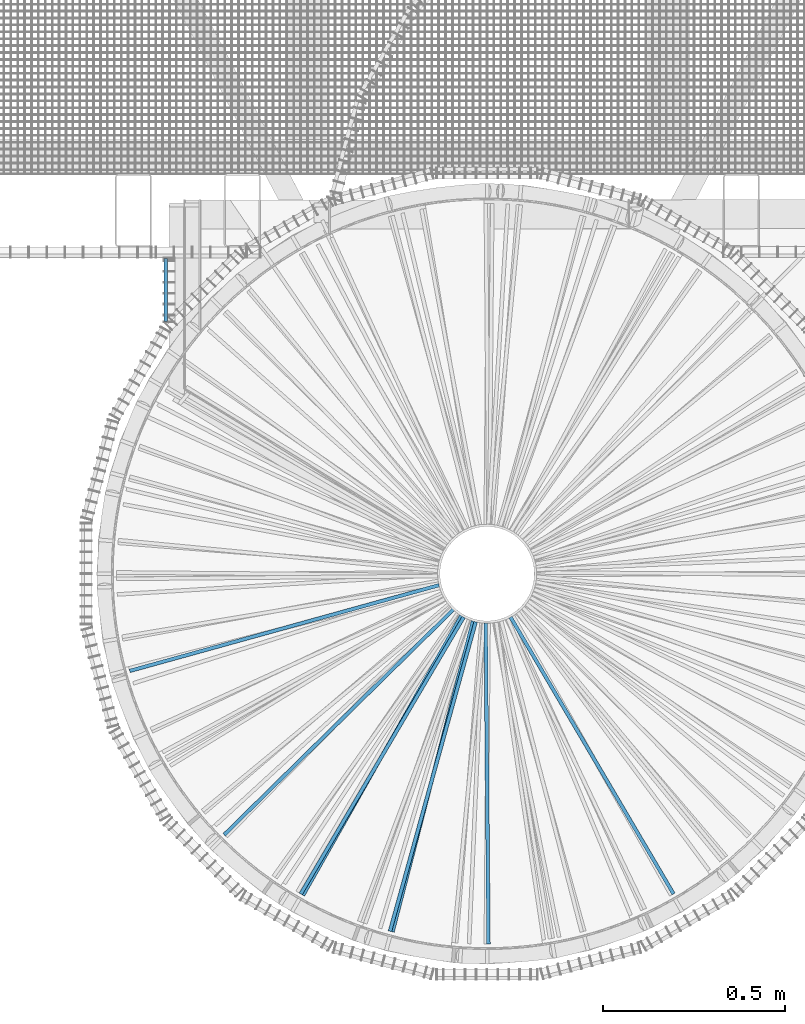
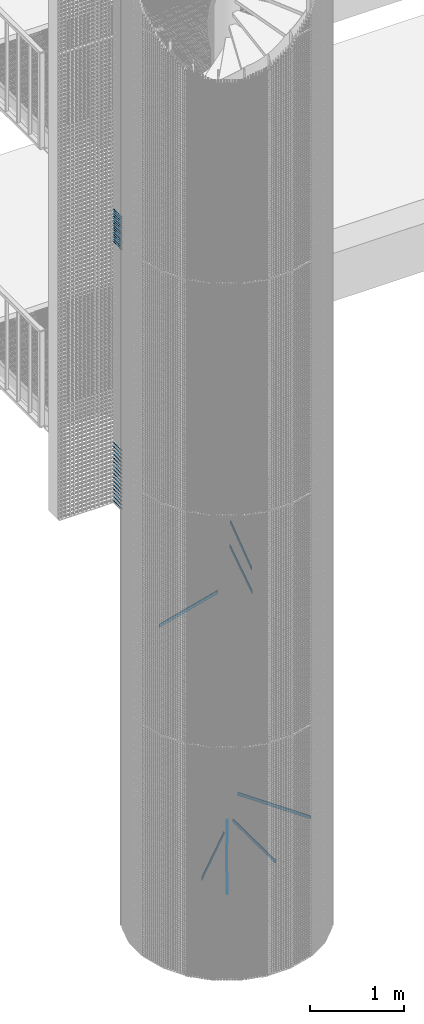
# One storey, part 180 of 1183: 39 beams, 18 elements without a shape of their own.
"""IFC2X3 building model written with IfcOpenShell, lengths in millimetres."""

from ifc_helpers import new_model, si_unit, frame, origin_with_axes, origin_2d_with_axis, place, context, subcontext, project, spatial, polyline, rectangle, outline, extrude, boolean, material, type_object, element, aggregate, save


model = new_model("IFC2X3")

# Units and contexts
model_context = context("Model", 3, precision=1e-05, world=origin_with_axes())
body_context = subcontext(model_context, "Body", "Model", "MODEL_VIEW")
ifc_project = project(units=[si_unit("LENGTHUNIT", "METRE", prefix="MILLI"), si_unit("AREAUNIT", "SQUARE_METRE"), si_unit("VOLUMEUNIT", "CUBIC_METRE"), si_unit("MASSUNIT", "GRAM", prefix="KILO"), si_unit("TIMEUNIT", "SECOND"), si_unit("PLANEANGLEUNIT", "RADIAN"), si_unit("SOLIDANGLEUNIT", "STERADIAN"), si_unit("THERMODYNAMICTEMPERATUREUNIT", "DEGREE_CELSIUS"), si_unit("LUMINOUSINTENSITYUNIT", "LUMEN")], contexts=[model_context])

# Site, building, storey
site_placement = place(None, origin_with_axes())
site = spatial("IfcSite", under=ifc_project, at=site_placement, Name="Undefined", CompositionType="ELEMENT")
building_placement = place(site_placement, origin_with_axes())
building = spatial("IfcBuilding", under=site, at=building_placement, Name="Undefined", CompositionType="ELEMENT")
storey_placement = place(building_placement, origin_with_axes())
storey = spatial("IfcBuildingStorey", under=building, at=storey_placement, Name="Undefined", CompositionType="ELEMENT", Elevation=0.0)

# Assembly, beam
assembly_1_placement = place(storey_placement, origin_with_axes())
assembly_1 = element("IfcElementAssembly", 1, at=assembly_1_placement, inside=storey, AssemblyPlace="NOTDEFINED", PredefinedType="NOTDEFINED")
ifc_material = material(Name="STEEL/S235JR")
beam_type_1 = type_object("IfcBeamType", Name="PL2*10", PredefinedType="NOTDEFINED")
beam_1_placement = place(assembly_1_placement, frame((-884.882567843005, 867.997017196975, 5950.0), z_axis=(-1.0, 0.0, 0.0), x_axis=(0.0, -1.0, 0.0)))
beam_1 = element("IfcBeam", 2, at=beam_1_placement, type_object=beam_type_1, material=ifc_material, Name="ENTRETOISE", context=body_context, shape_type="SweptSolid", body=[
    extrude(rectangle(XDim=2.0, YDim=10.0, at=origin_2d_with_axis()), frame((174.109999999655, 0.0, 0.0), z_axis=(-1.0, 0.0, 0.0), x_axis=(0.0, -1.0, 0.0)), (0.0, 0.0, 1.0), 174.11),
])
aggregate(assembly_1, [beam_1])

assembly_2_placement = place(storey_placement, origin_with_axes())
assembly_2 = element("IfcElementAssembly", 3, at=assembly_2_placement, inside=storey, AssemblyPlace="NOTDEFINED", PredefinedType="NOTDEFINED")
beam_2_placement = place(assembly_2_placement, frame((-884.882567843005, 867.997017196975, 5900.0), z_axis=(-1.0, 0.0, 0.0), x_axis=(0.0, -1.0, 0.0)))
beam_2 = element("IfcBeam", 4, at=beam_2_placement, type_object=beam_type_1, material=ifc_material, Name="ENTRETOISE", context=body_context, shape_type="SweptSolid", body=[
    extrude(rectangle(XDim=2.0, YDim=10.0, at=origin_2d_with_axis()), frame((174.109999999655, 0.0, 0.0), z_axis=(-1.0, 0.0, 0.0), x_axis=(0.0, -1.0, 0.0)), (0.0, 0.0, 1.0), 174.11),
])
aggregate(assembly_2, [beam_2])

assembly_3_placement = place(storey_placement, origin_with_axes())
assembly_3 = element("IfcElementAssembly", 5, at=assembly_3_placement, inside=storey, AssemblyPlace="NOTDEFINED", PredefinedType="NOTDEFINED")
beam_3_placement = place(assembly_3_placement, frame((-884.882567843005, 867.997017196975, 5850.0), z_axis=(-1.0, 0.0, 0.0), x_axis=(0.0, -1.0, 0.0)))
beam_3 = element("IfcBeam", 6, at=beam_3_placement, type_object=beam_type_1, material=ifc_material, Name="ENTRETOISE", context=body_context, shape_type="SweptSolid", body=[
    extrude(rectangle(XDim=2.0, YDim=10.0, at=origin_2d_with_axis()), frame((174.109999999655, 0.0, 0.0), z_axis=(-1.0, 0.0, 0.0), x_axis=(0.0, -1.0, 0.0)), (0.0, 0.0, 1.0), 174.11),
])
aggregate(assembly_3, [beam_3])

assembly_4_placement = place(storey_placement, origin_with_axes())
assembly_4 = element("IfcElementAssembly", 7, at=assembly_4_placement, inside=storey, AssemblyPlace="NOTDEFINED", PredefinedType="NOTDEFINED")
beam_4_placement = place(assembly_4_placement, frame((-884.882567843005, 867.997017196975, 5800.0), z_axis=(-1.0, 0.0, 0.0), x_axis=(0.0, -1.0, 0.0)))
beam_4 = element("IfcBeam", 8, at=beam_4_placement, type_object=beam_type_1, material=ifc_material, Name="ENTRETOISE", context=body_context, shape_type="SweptSolid", body=[
    extrude(rectangle(XDim=2.0, YDim=10.0, at=origin_2d_with_axis()), frame((174.109999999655, 0.0, 0.0), z_axis=(-1.0, 0.0, 0.0), x_axis=(0.0, -1.0, 0.0)), (0.0, 0.0, 1.0), 174.11),
])
aggregate(assembly_4, [beam_4])

assembly_5_placement = place(storey_placement, origin_with_axes())
assembly_5 = element("IfcElementAssembly", 9, at=assembly_5_placement, inside=storey, AssemblyPlace="NOTDEFINED", PredefinedType="NOTDEFINED")
beam_5_placement = place(assembly_5_placement, frame((-884.882567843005, 867.997017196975, 5750.0), z_axis=(-1.0, 0.0, 0.0), x_axis=(0.0, -1.0, 0.0)))
beam_5 = element("IfcBeam", 10, at=beam_5_placement, type_object=beam_type_1, material=ifc_material, Name="ENTRETOISE", context=body_context, shape_type="SweptSolid", body=[
    extrude(rectangle(XDim=2.0, YDim=10.0, at=origin_2d_with_axis()), frame((174.109999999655, 0.0, 0.0), z_axis=(-1.0, 0.0, 0.0), x_axis=(0.0, -1.0, 0.0)), (0.0, 0.0, 1.0), 174.11),
])
aggregate(assembly_5, [beam_5])

assembly_6_placement = place(storey_placement, origin_with_axes())
assembly_6 = element("IfcElementAssembly", 11, at=assembly_6_placement, inside=storey, AssemblyPlace="NOTDEFINED", PredefinedType="NOTDEFINED")
beam_6_placement = place(assembly_6_placement, frame((-884.882567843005, 867.997017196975, 5700.0), z_axis=(-1.0, 0.0, 0.0), x_axis=(0.0, -1.0, 0.0)))
beam_6 = element("IfcBeam", 12, at=beam_6_placement, type_object=beam_type_1, material=ifc_material, Name="ENTRETOISE", context=body_context, shape_type="SweptSolid", body=[
    extrude(rectangle(XDim=2.0, YDim=10.0, at=origin_2d_with_axis()), frame((174.109999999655, 0.0, 0.0), z_axis=(-1.0, 0.0, 0.0), x_axis=(0.0, -1.0, 0.0)), (0.0, 0.0, 1.0), 174.11),
])
aggregate(assembly_6, [beam_6])

assembly_7_placement = place(storey_placement, origin_with_axes())
assembly_7 = element("IfcElementAssembly", 13, at=assembly_7_placement, inside=storey, AssemblyPlace="NOTDEFINED", PredefinedType="NOTDEFINED")
beam_7_placement = place(assembly_7_placement, frame((-884.882567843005, 867.997017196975, 5650.0), z_axis=(-1.0, 0.0, 0.0), x_axis=(0.0, -1.0, 0.0)))
beam_7 = element("IfcBeam", 14, at=beam_7_placement, type_object=beam_type_1, material=ifc_material, Name="ENTRETOISE", context=body_context, shape_type="SweptSolid", body=[
    extrude(rectangle(XDim=2.0, YDim=10.0, at=origin_2d_with_axis()), frame((174.109999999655, 0.0, 0.0), z_axis=(-1.0, 0.0, 0.0), x_axis=(0.0, -1.0, 0.0)), (0.0, 0.0, 1.0), 174.11),
])
aggregate(assembly_7, [beam_7])

assembly_8_placement = place(storey_placement, origin_with_axes())
assembly_8 = element("IfcElementAssembly", 15, at=assembly_8_placement, inside=storey, AssemblyPlace="NOTDEFINED", PredefinedType="NOTDEFINED")
beam_8_placement = place(assembly_8_placement, frame((-884.882567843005, 867.997017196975, 5600.0), z_axis=(-1.0, 0.0, 0.0), x_axis=(0.0, -1.0, 0.0)))
beam_8 = element("IfcBeam", 16, at=beam_8_placement, type_object=beam_type_1, material=ifc_material, Name="ENTRETOISE", context=body_context, shape_type="SweptSolid", body=[
    extrude(rectangle(XDim=2.0, YDim=10.0, at=origin_2d_with_axis()), frame((174.109999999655, 0.0, 0.0), z_axis=(-1.0, 0.0, 0.0), x_axis=(0.0, -1.0, 0.0)), (0.0, 0.0, 1.0), 174.11),
])
aggregate(assembly_8, [beam_8])

assembly_9_placement = place(storey_placement, origin_with_axes())
assembly_9 = element("IfcElementAssembly", 17, at=assembly_9_placement, inside=storey, AssemblyPlace="NOTDEFINED", PredefinedType="NOTDEFINED")
beam_9_placement = place(assembly_9_placement, frame((-884.882567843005, 867.997017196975, 5550.0), z_axis=(-1.0, 0.0, 0.0), x_axis=(0.0, -1.0, 0.0)))
beam_9 = element("IfcBeam", 18, at=beam_9_placement, type_object=beam_type_1, material=ifc_material, Name="ENTRETOISE", context=body_context, shape_type="SweptSolid", body=[
    extrude(rectangle(XDim=2.0, YDim=10.0, at=origin_2d_with_axis()), frame((174.109999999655, 0.0, 0.0), z_axis=(-1.0, 0.0, 0.0), x_axis=(0.0, -1.0, 0.0)), (0.0, 0.0, 1.0), 174.11),
])
aggregate(assembly_9, [beam_9])

assembly_10_placement = place(storey_placement, origin_with_axes())
assembly_10 = element("IfcElementAssembly", 19, at=assembly_10_placement, inside=storey, AssemblyPlace="NOTDEFINED", PredefinedType="NOTDEFINED")
beam_10_placement = place(assembly_10_placement, frame((-884.882567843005, 867.997017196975, 5500.0), z_axis=(-1.0, 0.0, 0.0), x_axis=(0.0, -1.0, 0.0)))
beam_10 = element("IfcBeam", 20, at=beam_10_placement, type_object=beam_type_1, material=ifc_material, Name="ENTRETOISE", context=body_context, shape_type="SweptSolid", body=[
    extrude(rectangle(XDim=2.0, YDim=10.0, at=origin_2d_with_axis()), frame((174.109999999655, 0.0, 0.0), z_axis=(-1.0, 0.0, 0.0), x_axis=(0.0, -1.0, 0.0)), (0.0, 0.0, 1.0), 174.11),
])
aggregate(assembly_10, [beam_10])

assembly_11_placement = place(storey_placement, origin_with_axes())
assembly_11 = element("IfcElementAssembly", 21, at=assembly_11_placement, inside=storey, AssemblyPlace="NOTDEFINED", PredefinedType="NOTDEFINED")
beam_11_placement = place(assembly_11_placement, frame((-884.882567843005, 867.997017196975, 5450.0), z_axis=(-1.0, 0.0, 0.0), x_axis=(0.0, -1.0, 0.0)))
beam_11 = element("IfcBeam", 22, at=beam_11_placement, type_object=beam_type_1, material=ifc_material, Name="ENTRETOISE", context=body_context, shape_type="SweptSolid", body=[
    extrude(rectangle(XDim=2.0, YDim=10.0, at=origin_2d_with_axis()), frame((174.109999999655, 0.0, 0.0), z_axis=(-1.0, 0.0, 0.0), x_axis=(0.0, -1.0, 0.0)), (0.0, 0.0, 1.0), 174.11),
])
aggregate(assembly_11, [beam_11])

assembly_12_placement = place(storey_placement, origin_with_axes())
assembly_12 = element("IfcElementAssembly", 23, at=assembly_12_placement, inside=storey, AssemblyPlace="NOTDEFINED", PredefinedType="NOTDEFINED")
beam_12_placement = place(assembly_12_placement, frame((-884.882567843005, 867.997017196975, 5400.0), z_axis=(-1.0, 0.0, 0.0), x_axis=(0.0, -1.0, 0.0)))
beam_12 = element("IfcBeam", 24, at=beam_12_placement, type_object=beam_type_1, material=ifc_material, Name="ENTRETOISE", context=body_context, shape_type="SweptSolid", body=[
    extrude(rectangle(XDim=2.0, YDim=10.0, at=origin_2d_with_axis()), frame((174.109999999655, 0.0, 0.0), z_axis=(-1.0, 0.0, 0.0), x_axis=(0.0, -1.0, 0.0)), (0.0, 0.0, 1.0), 174.11),
])
aggregate(assembly_12, [beam_12])

assembly_13_placement = place(storey_placement, origin_with_axes())
assembly_13 = element("IfcElementAssembly", 25, at=assembly_13_placement, inside=storey, AssemblyPlace="NOTDEFINED", PredefinedType="NOTDEFINED")
beam_13_placement = place(assembly_13_placement, frame((-884.882567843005, 867.997017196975, 5350.0), z_axis=(-1.0, 0.0, 0.0), x_axis=(0.0, -1.0, 0.0)))
beam_13 = element("IfcBeam", 26, at=beam_13_placement, type_object=beam_type_1, material=ifc_material, Name="ENTRETOISE", context=body_context, shape_type="SweptSolid", body=[
    extrude(rectangle(XDim=2.0, YDim=10.0, at=origin_2d_with_axis()), frame((174.109999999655, 0.0, 0.0), z_axis=(-1.0, 0.0, 0.0), x_axis=(0.0, -1.0, 0.0)), (0.0, 0.0, 1.0), 174.11),
])
aggregate(assembly_13, [beam_13])

assembly_14_placement = place(storey_placement, origin_with_axes())
assembly_14 = element("IfcElementAssembly", 27, at=assembly_14_placement, inside=storey, AssemblyPlace="NOTDEFINED", PredefinedType="NOTDEFINED")
beam_14_placement = place(assembly_14_placement, frame((-884.882567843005, 867.997017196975, 5300.0), z_axis=(-1.0, 0.0, 0.0), x_axis=(0.0, -1.0, 0.0)))
beam_14 = element("IfcBeam", 28, at=beam_14_placement, type_object=beam_type_1, material=ifc_material, Name="ENTRETOISE", context=body_context, shape_type="SweptSolid", body=[
    extrude(rectangle(XDim=2.0, YDim=10.0, at=origin_2d_with_axis()), frame((174.109999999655, 0.0, 0.0), z_axis=(-1.0, 0.0, 0.0), x_axis=(0.0, -1.0, 0.0)), (0.0, 0.0, 1.0), 174.11),
])
aggregate(assembly_14, [beam_14])

assembly_15_placement = place(storey_placement, origin_with_axes())
assembly_15 = element("IfcElementAssembly", 29, at=assembly_15_placement, inside=storey, AssemblyPlace="NOTDEFINED", PredefinedType="NOTDEFINED")
beam_15_placement = place(assembly_15_placement, frame((-884.882567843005, 867.997017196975, 5250.0), z_axis=(-1.0, 0.0, 0.0), x_axis=(0.0, -1.0, 0.0)))
beam_15 = element("IfcBeam", 30, at=beam_15_placement, type_object=beam_type_1, material=ifc_material, Name="ENTRETOISE", context=body_context, shape_type="SweptSolid", body=[
    extrude(rectangle(XDim=2.0, YDim=10.0, at=origin_2d_with_axis()), frame((174.109999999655, 0.0, 0.0), z_axis=(-1.0, 0.0, 0.0), x_axis=(0.0, -1.0, 0.0)), (0.0, 0.0, 1.0), 174.11),
])
aggregate(assembly_15, [beam_15])

assembly_16_placement = place(storey_placement, origin_with_axes())
assembly_16 = element("IfcElementAssembly", 31, at=assembly_16_placement, inside=storey, AssemblyPlace="NOTDEFINED", PredefinedType="NOTDEFINED")
beam_16_placement = place(assembly_16_placement, frame((-884.882567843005, 867.997017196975, 5200.0), z_axis=(-1.0, 0.0, 0.0), x_axis=(0.0, -1.0, 0.0)))
beam_16 = element("IfcBeam", 32, at=beam_16_placement, type_object=beam_type_1, material=ifc_material, Name="ENTRETOISE", context=body_context, shape_type="SweptSolid", body=[
    extrude(rectangle(XDim=2.0, YDim=10.0, at=origin_2d_with_axis()), frame((174.109999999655, 0.0, 0.0), z_axis=(-1.0, 0.0, 0.0), x_axis=(0.0, -1.0, 0.0)), (0.0, 0.0, 1.0), 174.11),
])
aggregate(assembly_16, [beam_16])

# Assembly, beams
assembly_17_placement = place(storey_placement, origin_with_axes())
assembly_17 = element("IfcElementAssembly", 33, at=assembly_17_placement, inside=storey, Name="BORDURE", AssemblyPlace="NOTDEFINED", PredefinedType="NOTDEFINED")
beam_17_placement = place(assembly_17_placement, frame((-884.882567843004, 867.997017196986, 8970.0), z_axis=(-1.0, 0.0, 0.0), x_axis=(0.0, -1.0, 0.0)))
beam_17 = element("IfcBeam", 34, at=beam_17_placement, type_object=beam_type_1, material=ifc_material, Name="ENTRETOISE", context=body_context, shape_type="SweptSolid", body=[
    extrude(rectangle(XDim=2.0, YDim=10.0, at=origin_2d_with_axis()), frame((174.109999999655, 0.0, 0.0), z_axis=(-1.0, 0.0, 0.0), x_axis=(0.0, -1.0, 0.0)), (0.0, 0.0, 1.0), 174.11),
])
beam_18_placement = place(assembly_17_placement, frame((-884.882567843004, 867.997017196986, 8940.0), z_axis=(-1.0, 0.0, 0.0), x_axis=(0.0, -1.0, 0.0)))
beam_18 = element("IfcBeam", 35, at=beam_18_placement, type_object=beam_type_1, material=ifc_material, Name="ENTRETOISE", context=body_context, shape_type="SweptSolid", body=[
    extrude(rectangle(XDim=2.0, YDim=10.0, at=origin_2d_with_axis()), frame((174.109999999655, 0.0, 0.0), z_axis=(-1.0, 0.0, 0.0), x_axis=(0.0, -1.0, 0.0)), (0.0, 0.0, 1.0), 174.11),
])
beam_19_placement = place(assembly_17_placement, frame((-884.882567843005, 867.997017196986, 8910.0), z_axis=(-1.0, 0.0, 0.0), x_axis=(0.0, -1.0, 0.0)))
beam_19 = element("IfcBeam", 36, at=beam_19_placement, type_object=beam_type_1, material=ifc_material, Name="ENTRETOISE", context=body_context, shape_type="SweptSolid", body=[
    extrude(rectangle(XDim=2.0, YDim=10.0, at=origin_2d_with_axis()), frame((174.109999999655, 0.0, 0.0), z_axis=(-1.0, 0.0, 0.0), x_axis=(0.0, -1.0, 0.0)), (0.0, 0.0, 1.0), 174.11),
])
beam_20_placement = place(assembly_17_placement, frame((-884.882567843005, 867.997017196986, 8880.0), z_axis=(-1.0, 0.0, 0.0), x_axis=(0.0, -1.0, 0.0)))
beam_20 = element("IfcBeam", 37, at=beam_20_placement, type_object=beam_type_1, material=ifc_material, Name="ENTRETOISE", context=body_context, shape_type="SweptSolid", body=[
    extrude(rectangle(XDim=2.0, YDim=10.0, at=origin_2d_with_axis()), frame((174.109999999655, 0.0, 0.0), z_axis=(-1.0, 0.0, 0.0), x_axis=(0.0, -1.0, 0.0)), (0.0, 0.0, 1.0), 174.11),
])
beam_21_placement = place(assembly_17_placement, frame((-884.882567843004, 867.997017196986, 8850.0), z_axis=(-1.0, 0.0, 0.0), x_axis=(0.0, -1.0, 0.0)))
beam_21 = element("IfcBeam", 38, at=beam_21_placement, type_object=beam_type_1, material=ifc_material, Name="ENTRETOISE", context=body_context, shape_type="SweptSolid", body=[
    extrude(rectangle(XDim=2.0, YDim=10.0, at=origin_2d_with_axis()), frame((174.109999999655, 0.0, 0.0), z_axis=(-1.0, 0.0, 0.0), x_axis=(0.0, -1.0, 0.0)), (0.0, 0.0, 1.0), 174.11),
])
beam_22_placement = place(assembly_17_placement, frame((-884.882567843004, 867.997017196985, 8820.0), z_axis=(-1.0, 0.0, 0.0), x_axis=(0.0, -1.0, 0.0)))
beam_22 = element("IfcBeam", 39, at=beam_22_placement, type_object=beam_type_1, material=ifc_material, Name="ENTRETOISE", context=body_context, shape_type="SweptSolid", body=[
    extrude(rectangle(XDim=2.0, YDim=10.0, at=origin_2d_with_axis()), frame((174.109999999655, 0.0, 0.0), z_axis=(-1.0, 0.0, 0.0), x_axis=(0.0, -1.0, 0.0)), (0.0, 0.0, 1.0), 174.11),
])
beam_23_placement = place(assembly_17_placement, frame((-884.882567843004, 867.997017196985, 8790.0), z_axis=(-1.0, 0.0, 0.0), x_axis=(0.0, -1.0, 0.0)))
beam_23 = element("IfcBeam", 40, at=beam_23_placement, type_object=beam_type_1, material=ifc_material, Name="ENTRETOISE", context=body_context, shape_type="SweptSolid", body=[
    extrude(rectangle(XDim=2.0, YDim=10.0, at=origin_2d_with_axis()), frame((174.109999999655, 0.0, 0.0), z_axis=(-1.0, 0.0, 0.0), x_axis=(0.0, -1.0, 0.0)), (0.0, 0.0, 1.0), 174.11),
])
beam_24_placement = place(assembly_17_placement, frame((-884.882567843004, 867.997017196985, 8760.0), z_axis=(-1.0, 0.0, 0.0), x_axis=(0.0, -1.0, 0.0)))
beam_24 = element("IfcBeam", 41, at=beam_24_placement, type_object=beam_type_1, material=ifc_material, Name="ENTRETOISE", context=body_context, shape_type="SweptSolid", body=[
    extrude(rectangle(XDim=2.0, YDim=10.0, at=origin_2d_with_axis()), frame((174.109999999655, 0.0, 0.0), z_axis=(-1.0, 0.0, 0.0), x_axis=(0.0, -1.0, 0.0)), (0.0, 0.0, 1.0), 174.11),
])
beam_25_placement = place(assembly_17_placement, frame((-884.882567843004, 867.997017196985, 8730.0), z_axis=(-1.0, 0.0, 0.0), x_axis=(0.0, -1.0, 0.0)))
beam_25 = element("IfcBeam", 42, at=beam_25_placement, type_object=beam_type_1, material=ifc_material, Name="ENTRETOISE", context=body_context, shape_type="SweptSolid", body=[
    extrude(rectangle(XDim=2.0, YDim=10.0, at=origin_2d_with_axis()), frame((174.109999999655, 0.0, 0.0), z_axis=(-1.0, 0.0, 0.0), x_axis=(0.0, -1.0, 0.0)), (0.0, 0.0, 1.0), 174.11),
])
beam_26_placement = place(assembly_17_placement, frame((-884.882567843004, 867.997017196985, 8700.0), z_axis=(-1.0, 0.0, 0.0), x_axis=(0.0, -1.0, 0.0)))
beam_26 = element("IfcBeam", 43, at=beam_26_placement, type_object=beam_type_1, material=ifc_material, Name="ENTRETOISE", context=body_context, shape_type="SweptSolid", body=[
    extrude(rectangle(XDim=2.0, YDim=10.0, at=origin_2d_with_axis()), frame((174.109999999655, 0.0, 0.0), z_axis=(-1.0, 0.0, 0.0), x_axis=(0.0, -1.0, 0.0)), (0.0, 0.0, 1.0), 174.11),
])
beam_27_placement = place(assembly_17_placement, frame((-884.882567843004, 867.997017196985, 8670.0), z_axis=(-1.0, 0.0, 0.0), x_axis=(0.0, -1.0, 0.0)))
beam_27 = element("IfcBeam", 44, at=beam_27_placement, type_object=beam_type_1, material=ifc_material, Name="ENTRETOISE", context=body_context, shape_type="SweptSolid", body=[
    extrude(rectangle(XDim=2.0, YDim=10.0, at=origin_2d_with_axis()), frame((174.109999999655, 0.0, 0.0), z_axis=(-1.0, 0.0, 0.0), x_axis=(0.0, -1.0, 0.0)), (0.0, 0.0, 1.0), 174.11),
])
beam_28_placement = place(assembly_17_placement, frame((-884.882567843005, 867.997017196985, 8640.0), z_axis=(-1.0, 0.0, 0.0), x_axis=(0.0, -1.0, 0.0)))
beam_28 = element("IfcBeam", 45, at=beam_28_placement, type_object=beam_type_1, material=ifc_material, Name="ENTRETOISE", context=body_context, shape_type="SweptSolid", body=[
    extrude(rectangle(XDim=2.0, YDim=10.0, at=origin_2d_with_axis()), frame((174.109999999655, 0.0, 0.0), z_axis=(-1.0, 0.0, 0.0), x_axis=(0.0, -1.0, 0.0)), (0.0, 0.0, 1.0), 174.11),
])
beam_29_placement = place(assembly_17_placement, frame((-884.882567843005, 867.997017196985, 8610.0), z_axis=(-1.0, 0.0, 0.0), x_axis=(0.0, -1.0, 0.0)))
beam_29 = element("IfcBeam", 46, at=beam_29_placement, type_object=beam_type_1, material=ifc_material, Name="ENTRETOISE", context=body_context, shape_type="SweptSolid", body=[
    extrude(rectangle(XDim=2.0, YDim=10.0, at=origin_2d_with_axis()), frame((174.109999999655, 0.0, 0.0), z_axis=(-1.0, 0.0, 0.0), x_axis=(0.0, -1.0, 0.0)), (0.0, 0.0, 1.0), 174.11),
])
beam_30_placement = place(assembly_17_placement, frame((-884.882567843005, 867.997017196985, 8580.0), z_axis=(-1.0, 0.0, 0.0), x_axis=(0.0, -1.0, 0.0)))
beam_30 = element("IfcBeam", 47, at=beam_30_placement, type_object=beam_type_1, material=ifc_material, Name="ENTRETOISE", context=body_context, shape_type="SweptSolid", body=[
    extrude(rectangle(XDim=2.0, YDim=10.0, at=origin_2d_with_axis()), frame((174.109999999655, 0.0, 0.0), z_axis=(-1.0, 0.0, 0.0), x_axis=(0.0, -1.0, 0.0)), (0.0, 0.0, 1.0), 174.11),
])
beam_31_placement = place(assembly_17_placement, frame((-884.882567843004, 867.997017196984, 8550.0), z_axis=(-1.0, 0.0, 0.0), x_axis=(0.0, -1.0, 0.0)))
beam_31 = element("IfcBeam", 48, at=beam_31_placement, type_object=beam_type_1, material=ifc_material, Name="ENTRETOISE", context=body_context, shape_type="SweptSolid", body=[
    extrude(rectangle(XDim=2.0, YDim=10.0, at=origin_2d_with_axis()), frame((174.109999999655, 0.0, 0.0), z_axis=(-1.0, 0.0, 0.0), x_axis=(0.0, -1.0, 0.0)), (0.0, 0.0, 1.0), 174.11),
])
aggregate(assembly_17, [beam_17, beam_18, beam_19, beam_20, beam_21, beam_22, beam_23, beam_24, beam_25, beam_26, beam_27, beam_28, beam_29, beam_30, beam_31])

assembly_18_placement = place(storey_placement, origin_with_axes())
assembly_18 = element("IfcElementAssembly", 49, at=assembly_18_placement, inside=storey, Name="POTEAU", AssemblyPlace="NOTDEFINED", PredefinedType="NOTDEFINED")
beam_type_2 = type_object("IfcBeamType", Name="PL10*40", PredefinedType="NOTDEFINED")
beam_32_placement = place(assembly_18_placement, frame((-4.2891826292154, -83.9487882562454, 1366.68), z_axis=(0.0, 0.0, 1.0), x_axis=(0.00846910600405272, -0.99996413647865, 0.0)))
beam_32 = element("IfcBeam", 50, at=beam_32_placement, type_object=beam_type_2, material=ifc_material, Name="RAIDISSEUR", context=body_context, shape_type="CSG", body=[
    boolean("DIFFERENCE", extrude(rectangle(XDim=10.0, YDim=40.0, at=origin_2d_with_axis()), frame((935.982964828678, -2.59787459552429e-14, -3.63797880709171e-12), z_axis=(-1.0, 0.0, 0.0), x_axis=(0.0, -1.0, 0.0)), (0.0, 0.0, 1.0), 935.98), extrude(outline(polyline([(0.0, 0.0), (30.5663019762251, -4.91127138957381e-11), (60.366242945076, 6.80164206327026), (87.9055294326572, 20.0638634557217), (111.803226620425, 39.1216410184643), (130.861004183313, 63.0193382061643), (144.123225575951, 90.5586246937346), (150.9248676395, 120.358565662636), (150.924867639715, 150.924867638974), (144.123225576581, 180.724808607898), (130.86100418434, 208.264095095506), (111.803226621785, 232.161792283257), (87.9055294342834, 251.219569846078), (60.3662429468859, 264.481791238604), (30.5663019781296, 271.283433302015), (1.90266291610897e-09, 271.28343330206), (-29.7999409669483, 264.481791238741), (-57.3392274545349, 251.219569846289), (-81.2369246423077, 232.161792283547), (-100.294702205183, 208.26409509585), (-113.556923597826, 180.724808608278), (-120.35856566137, 150.92486763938), (-120.358565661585, 120.358565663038), (-113.556923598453, 90.5586246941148), (-100.294702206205, 63.0193382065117), (-81.2369246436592, 39.1216410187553), (-57.3392274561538, 20.0638634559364), (-29.7999409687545, 6.80164206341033), (0.0, 0.0)])), frame((-88.4680432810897, -131.423858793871, -22.5000000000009), z_axis=(0.0, 0.0, 1.0), x_axis=(0.996897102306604, 0.0787157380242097, 0.0)), (0.0, 0.0, 1.0), 45.0)),
])
beam_33_placement = place(assembly_18_placement, frame((-56.3278473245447, -62.393667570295, 1212.16), z_axis=(0.0, 0.0, 1.0), x_axis=(-0.713069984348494, -0.70109285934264, 0.0)))
beam_33 = element("IfcBeam", 51, at=beam_33_placement, type_object=beam_type_2, material=ifc_material, Name="RAIDISSEUR", context=body_context, shape_type="CSG", body=[
    boolean("DIFFERENCE", extrude(rectangle(XDim=10.0, YDim=40.0, at=origin_2d_with_axis()), frame((935.982964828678, -2.59787459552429e-14, -3.63797880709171e-12), z_axis=(-1.0, 0.0, 0.0), x_axis=(0.0, -1.0, 0.0)), (0.0, 0.0, 1.0), 935.98), extrude(outline(polyline([(0.0, 0.0), (30.5663019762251, -4.91127138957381e-11), (60.366242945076, 6.80164206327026), (87.9055294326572, 20.0638634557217), (111.803226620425, 39.1216410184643), (130.861004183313, 63.0193382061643), (144.123225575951, 90.5586246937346), (150.9248676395, 120.358565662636), (150.924867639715, 150.924867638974), (144.123225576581, 180.724808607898), (130.86100418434, 208.264095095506), (111.803226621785, 232.161792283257), (87.9055294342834, 251.219569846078), (60.3662429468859, 264.481791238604), (30.5663019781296, 271.283433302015), (1.90266291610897e-09, 271.28343330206), (-29.7999409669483, 264.481791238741), (-57.3392274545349, 251.219569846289), (-81.2369246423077, 232.161792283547), (-100.294702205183, 208.26409509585), (-113.556923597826, 180.724808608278), (-120.35856566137, 150.92486763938), (-120.358565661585, 120.358565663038), (-113.556923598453, 90.5586246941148), (-100.294702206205, 63.0193382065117), (-81.2369246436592, 39.1216410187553), (-57.3392274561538, 20.0638634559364), (-29.7999409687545, 6.80164206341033), (0.0, 0.0)])), frame((11.0085008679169, -103.09603572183, -22.4999999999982), z_axis=(0.0, 0.0, 1.0), x_axis=(0.636276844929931, 0.771460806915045, 0.0)), (0.0, 0.0, 1.0), 45.0)),
])
beam_34_placement = place(assembly_18_placement, frame((-45.6889352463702, -70.5571919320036, 1057.64), z_axis=(0.0, 0.0, 1.0), x_axis=(-0.492647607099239, -0.870228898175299, 0.0)))
beam_34 = element("IfcBeam", 52, at=beam_34_placement, type_object=beam_type_2, material=ifc_material, Name="RAIDISSEUR", context=body_context, shape_type="CSG", body=[
    boolean("DIFFERENCE", extrude(rectangle(XDim=10.0, YDim=40.0, at=origin_2d_with_axis()), frame((935.982964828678, -2.59787459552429e-14, -3.63797880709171e-12), z_axis=(-1.0, 0.0, 0.0), x_axis=(0.0, -1.0, 0.0)), (0.0, 0.0, 1.0), 935.98), extrude(outline(polyline([(0.0, 0.0), (30.5663019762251, -4.91127138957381e-11), (60.366242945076, 6.80164206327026), (87.9055294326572, 20.0638634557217), (111.803226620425, 39.1216410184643), (130.861004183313, 63.0193382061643), (144.123225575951, 90.5586246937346), (150.9248676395, 120.358565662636), (150.924867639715, 150.924867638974), (144.123225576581, 180.724808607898), (130.86100418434, 208.264095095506), (111.803226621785, 232.161792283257), (87.9055294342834, 251.219569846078), (60.3662429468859, 264.481791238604), (30.5663019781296, 271.283433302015), (1.90266291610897e-09, 271.28343330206), (-29.7999409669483, 264.481791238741), (-57.3392274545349, 251.219569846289), (-81.2369246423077, 232.161792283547), (-100.294702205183, 208.26409509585), (-113.556923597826, 180.724808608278), (-120.35856566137, 150.92486763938), (-120.358565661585, 120.358565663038), (-113.556923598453, 90.5586246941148), (-100.294702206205, 63.0193382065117), (-81.2369246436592, 39.1216410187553), (-57.3392274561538, 20.0638634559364), (-29.7999409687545, 6.80164206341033), (0.0, 0.0)])), frame((-19.6453784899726, -115.425823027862, -22.5), z_axis=(0.0, 0.0, 1.0), x_axis=(0.823980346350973, 0.56661838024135, 0.0)), (0.0, 0.0, 1.0), 45.0)),
])
beam_35_placement = place(assembly_18_placement, frame((-82.1984248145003, -17.5845129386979, 4302.56), z_axis=(0.0, 0.0, 1.0), x_axis=(-0.963699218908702, -0.266990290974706, 0.0)))
beam_35 = element("IfcBeam", 53, at=beam_35_placement, type_object=beam_type_2, material=ifc_material, Name="RAIDISSEUR", context=body_context, shape_type="CSG", body=[
    boolean("DIFFERENCE", extrude(rectangle(XDim=10.0, YDim=40.0, at=origin_2d_with_axis()), frame((935.982964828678, -2.59787459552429e-14, -3.63797880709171e-12), z_axis=(-1.0, 0.0, 0.0), x_axis=(0.0, -1.0, 0.0)), (0.0, 0.0, 1.0), 935.98), extrude(outline(polyline([(0.0, 0.0), (30.5663019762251, -4.91127138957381e-11), (60.366242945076, 6.80164206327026), (87.9055294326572, 20.0638634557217), (111.803226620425, 39.1216410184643), (130.861004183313, 63.0193382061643), (144.123225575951, 90.5586246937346), (150.9248676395, 120.358565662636), (150.924867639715, 150.924867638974), (144.123225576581, 180.724808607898), (130.86100418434, 208.264095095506), (111.803226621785, 232.161792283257), (87.9055294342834, 251.219569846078), (60.3662429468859, 264.481791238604), (30.5663019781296, 271.283433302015), (1.90266291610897e-09, 271.28343330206), (-29.7999409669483, 264.481791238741), (-57.3392274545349, 251.219569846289), (-81.2369246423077, 232.161792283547), (-100.294702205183, 208.26409509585), (-113.556923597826, 180.724808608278), (-120.35856566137, 150.92486763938), (-120.358565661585, 120.358565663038), (-113.556923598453, 90.5586246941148), (-100.294702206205, 63.0193382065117), (-81.2369246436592, 39.1216410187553), (-57.3392274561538, 20.0638634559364), (-29.7999409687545, 6.80164206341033), (0.0, 0.0)])), frame((46.6860262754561, -34.7123538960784, -22.5), z_axis=(0.0, 0.0, 1.0), x_axis=(0.181982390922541, 0.983301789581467, 0.0)), (0.0, 0.0, 1.0), 45.0)),
])
beam_36_placement = place(assembly_18_placement, frame((-17.5845129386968, -82.1984248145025, 5229.68), z_axis=(0.0, 0.0, 1.0), x_axis=(-0.266990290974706, -0.963699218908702, 0.0)))
beam_36 = element("IfcBeam", 54, at=beam_36_placement, type_object=beam_type_2, material=ifc_material, Name="RAIDISSEUR", context=body_context, shape_type="CSG", body=[
    boolean("DIFFERENCE", extrude(rectangle(XDim=10.0, YDim=40.0, at=origin_2d_with_axis()), frame((935.982964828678, -2.59787459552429e-14, -3.63797880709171e-12), z_axis=(-1.0, 0.0, 0.0), x_axis=(0.0, -1.0, 0.0)), (0.0, 0.0, 1.0), 935.98), extrude(outline(polyline([(0.0, 0.0), (30.5663019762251, -4.91127138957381e-11), (60.366242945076, 6.80164206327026), (87.9055294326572, 20.0638634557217), (111.803226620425, 39.1216410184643), (130.861004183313, 63.0193382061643), (144.123225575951, 90.5586246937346), (150.9248676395, 120.358565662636), (150.924867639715, 150.924867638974), (144.123225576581, 180.724808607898), (130.86100418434, 208.264095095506), (111.803226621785, 232.161792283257), (87.9055294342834, 251.219569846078), (60.3662429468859, 264.481791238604), (30.5663019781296, 271.283433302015), (1.90266291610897e-09, 271.28343330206), (-29.7999409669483, 264.481791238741), (-57.3392274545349, 251.219569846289), (-81.2369246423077, 232.161792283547), (-100.294702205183, 208.26409509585), (-113.556923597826, 180.724808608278), (-120.35856566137, 150.92486763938), (-120.358565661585, 120.358565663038), (-113.556923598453, 90.5586246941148), (-100.294702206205, 63.0193382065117), (-81.2369246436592, 39.1216410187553), (-57.3392274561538, 20.0638634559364), (-29.7999409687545, 6.80164206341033), (0.0, 0.0)])), frame((-50.7561114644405, -137.412635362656, -22.5), z_axis=(0.0, 0.0, 1.0), x_axis=(0.936762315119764, 0.349966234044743, 0.0)), (0.0, 0.0, 1.0), 45.0)),
])
beam_37_placement = place(assembly_18_placement, frame((-38.2598530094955, -74.8463745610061, 1366.68), z_axis=(0.0, 0.0, 1.0), x_axis=(-0.50731652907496, -0.861759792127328, 0.0)))
beam_37 = element("IfcBeam", 55, at=beam_37_placement, type_object=beam_type_2, material=ifc_material, Name="RAIDISSEUR", context=body_context, shape_type="CSG", body=[
    boolean("DIFFERENCE", extrude(rectangle(XDim=10.0, YDim=40.0, at=origin_2d_with_axis()), frame((935.982964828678, -2.59787459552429e-14, -3.63797880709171e-12), z_axis=(-1.0, 0.0, 0.0), x_axis=(0.0, -1.0, 0.0)), (0.0, 0.0, 1.0), 935.98), extrude(outline(polyline([(0.0, 0.0), (30.5663019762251, -4.91127138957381e-11), (60.366242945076, 6.80164206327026), (87.9055294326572, 20.0638634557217), (111.803226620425, 39.1216410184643), (130.861004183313, 63.0193382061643), (144.123225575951, 90.5586246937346), (150.9248676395, 120.358565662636), (150.924867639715, 150.924867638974), (144.123225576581, 180.724808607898), (130.86100418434, 208.264095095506), (111.803226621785, 232.161792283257), (87.9055294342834, 251.219569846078), (60.3662429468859, 264.481791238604), (30.5663019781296, 271.283433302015), (1.90266291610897e-09, 271.28343330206), (-29.7999409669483, 264.481791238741), (-57.3392274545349, 251.219569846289), (-81.2369246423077, 232.161792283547), (-100.294702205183, 208.26409509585), (-113.556923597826, 180.724808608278), (-120.35856566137, 150.92486763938), (-120.358565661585, 120.358565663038), (-113.556923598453, 90.5586246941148), (-100.294702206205, 63.0193382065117), (-81.2369246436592, 39.1216410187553), (-57.3392274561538, 20.0638634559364), (-29.7999409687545, 6.80164206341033), (0.0, 0.0)])), frame((-17.6148722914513, -124.320068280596, -22.5), z_axis=(0.0, 0.0, 1.0), x_axis=(0.814264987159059, 0.580493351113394, 0.0)), (0.0, 0.0, 1.0), 45.0)),
])
beam_38_placement = place(assembly_18_placement, frame((38.2598530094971, -74.8463745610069, 1675.72), z_axis=(0.0, 0.0, 1.0), x_axis=(0.507316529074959, -0.861759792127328, 0.0)))
beam_38 = element("IfcBeam", 56, at=beam_38_placement, type_object=beam_type_2, material=ifc_material, Name="RAIDISSEUR", context=body_context, shape_type="CSG", body=[
    boolean("DIFFERENCE", extrude(rectangle(XDim=10.0, YDim=40.0, at=origin_2d_with_axis()), frame((935.982964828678, -2.59787459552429e-14, -3.63797880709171e-12), z_axis=(-1.0, 0.0, 0.0), x_axis=(0.0, -1.0, 0.0)), (0.0, 0.0, 1.0), 935.98), extrude(outline(polyline([(0.0, 0.0), (30.5663019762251, -4.91127138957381e-11), (60.366242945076, 6.80164206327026), (87.9055294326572, 20.0638634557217), (111.803226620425, 39.1216410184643), (130.861004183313, 63.0193382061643), (144.123225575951, 90.5586246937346), (150.9248676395, 120.358565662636), (150.924867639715, 150.924867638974), (144.123225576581, 180.724808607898), (130.86100418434, 208.264095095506), (111.803226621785, 232.161792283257), (87.9055294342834, 251.219569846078), (60.3662429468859, 264.481791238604), (30.5663019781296, 271.283433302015), (1.90266291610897e-09, 271.28343330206), (-29.7999409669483, 264.481791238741), (-57.3392274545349, 251.219569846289), (-81.2369246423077, 232.161792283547), (-100.294702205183, 208.26409509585), (-113.556923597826, 180.724808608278), (-120.35856566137, 150.92486763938), (-120.358565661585, 120.358565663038), (-113.556923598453, 90.5586246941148), (-100.294702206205, 63.0193382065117), (-81.2369246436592, 39.1216410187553), (-57.3392274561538, 20.0638634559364), (-29.7999409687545, 6.80164206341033), (0.0, 0.0)])), frame((-156.069237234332, -110.867231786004, -22.5), z_axis=(0.0, 0.0, 1.0), x_axis=(0.902696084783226, -0.430278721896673, 0.0)), (0.0, 0.0, 1.0), 45.0)),
])
beam_39_placement = place(assembly_18_placement, frame((-25.8705774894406, -79.978180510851, 4920.64), z_axis=(0.0, 0.0, 1.0), x_axis=(-0.250629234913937, -0.968083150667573, 0.0)))
beam_39 = element("IfcBeam", 57, at=beam_39_placement, type_object=beam_type_2, material=ifc_material, Name="RAIDISSEUR", context=body_context, shape_type="CSG", body=[
    boolean("DIFFERENCE", extrude(rectangle(XDim=10.0, YDim=40.0, at=origin_2d_with_axis()), frame((935.982964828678, -2.59787459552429e-14, -3.63797880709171e-12), z_axis=(-1.0, 0.0, 0.0), x_axis=(0.0, -1.0, 0.0)), (0.0, 0.0, 1.0), 935.98), extrude(outline(polyline([(0.0, 0.0), (30.5663019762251, -4.91127138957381e-11), (60.366242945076, 6.80164206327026), (87.9055294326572, 20.0638634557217), (111.803226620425, 39.1216410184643), (130.861004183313, 63.0193382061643), (144.123225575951, 90.5586246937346), (150.9248676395, 120.358565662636), (150.924867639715, 150.924867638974), (144.123225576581, 180.724808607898), (130.86100418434, 208.264095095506), (111.803226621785, 232.161792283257), (87.9055294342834, 251.219569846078), (60.3662429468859, 264.481791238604), (30.5663019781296, 271.283433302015), (1.90266291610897e-09, 271.28343330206), (-29.7999409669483, 264.481791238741), (-57.3392274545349, 251.219569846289), (-81.2369246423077, 232.161792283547), (-100.294702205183, 208.26409509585), (-113.556923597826, 180.724808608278), (-120.35856566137, 150.92486763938), (-120.358565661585, 120.358565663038), (-113.556923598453, 90.5586246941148), (-100.294702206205, 63.0193382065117), (-81.2369246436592, 39.1216410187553), (-57.3392274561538, 20.0638634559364), (-29.7999409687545, 6.80164206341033), (0.0, 0.0)])), frame((-53.0036201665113, -127.955178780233, -22.5), z_axis=(0.0, 0.0, 1.0), x_axis=(0.942555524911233, 0.33404952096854, 0.0)), (0.0, 0.0, 1.0), 45.0)),
])
aggregate(assembly_18, [beam_32, beam_33, beam_34, beam_35, beam_36, beam_37, beam_38, beam_39])

save(model, "model.ifc")
